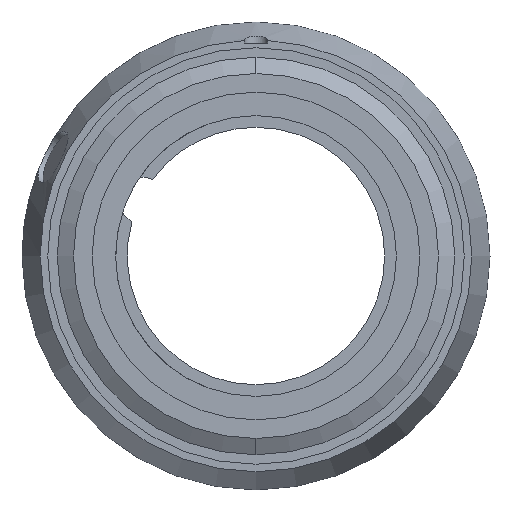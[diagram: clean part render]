
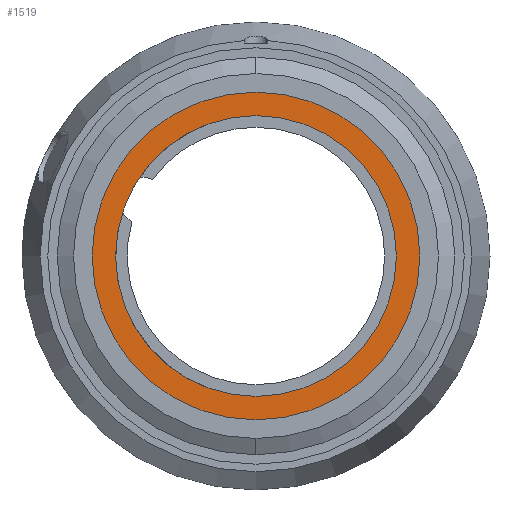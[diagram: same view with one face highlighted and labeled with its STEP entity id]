
A CAD part, left-side view. The second image highlights one B-rep face of the part: STEP entity #1519.
In plain terms, the highlighted planar face has unit normal (-1, 0, 0).
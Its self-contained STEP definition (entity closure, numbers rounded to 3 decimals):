
#263 = AXIS2_PLACEMENT_3D ( 'NONE', #1854, #1853, #1850 ) ;
#272 = AXIS2_PLACEMENT_3D ( 'NONE', #1871, #1870, #1869 ) ;
#313 = AXIS2_PLACEMENT_3D ( 'NONE', #2093, #2091, #2084 ) ;
#320 = AXIS2_PLACEMENT_3D ( 'NONE', #2168, #2164, #2163 ) ;
#394 = CIRCLE ( 'NONE', #263, 30. ) ;
#415 = CIRCLE ( 'NONE', #272, 35. ) ;
#531 = CIRCLE ( 'NONE', #313, 35. ) ;
#593 = CIRCLE ( 'NONE', #320, 30. ) ;
#606 = CARTESIAN_POINT ( 'NONE',  ( 942., 0., 1331.5 ) ) ;
#619 = CARTESIAN_POINT ( 'NONE',  ( 942., 0., 1261.5 ) ) ;
#1083 = EDGE_CURVE ( 'NONE', #1726, #1674, #593, .T. ) ;
#1125 = EDGE_CURVE ( 'NONE', #2345, #2266, #531, .T. ) ;
#1131 = CARTESIAN_POINT ( 'NONE',  ( 942., 0., 1326.5 ) ) ;
#1178 = EDGE_LOOP ( 'NONE', ( #2359, #1640 ) ) ;
#1188 = CARTESIAN_POINT ( 'NONE',  ( 942., 0., 1266.5 ) ) ;
#1225 = EDGE_CURVE ( 'NONE', #2266, #2345, #415, .T. ) ;
#1238 = EDGE_CURVE ( 'NONE', #1674, #1726, #394, .T. ) ;
#1349 = DIRECTION ( 'NONE',  ( 0., 0., 1. ) ) ;
#1352 = PLANE ( 'NONE',  #2052 ) ;
#1355 = CARTESIAN_POINT ( 'NONE',  ( 942., 0., 1296.5 ) ) ;
#1360 = DIRECTION ( 'NONE',  ( -1., 0., 0. ) ) ;
#1519 = ADVANCED_FACE ( 'NONE', ( #2454, #2421 ), #1352, .T. ) ;
#1640 = ORIENTED_EDGE ( 'NONE', *, *, #1083, .T. ) ;
#1674 = VERTEX_POINT ( 'NONE', #1188 ) ;
#1726 = VERTEX_POINT ( 'NONE', #1131 ) ;
#1850 = DIRECTION ( 'NONE',  ( 0., 0., -1. ) ) ;
#1853 = DIRECTION ( 'NONE',  ( 1., 0., 0. ) ) ;
#1854 = CARTESIAN_POINT ( 'NONE',  ( 942., 0., 1296.5 ) ) ;
#1869 = DIRECTION ( 'NONE',  ( 0., 0., -1. ) ) ;
#1870 = DIRECTION ( 'NONE',  ( -1., 0., 0. ) ) ;
#1871 = CARTESIAN_POINT ( 'NONE',  ( 942., 0., 1296.5 ) ) ;
#1982 = EDGE_LOOP ( 'NONE', ( #2198, #2311 ) ) ;
#2052 = AXIS2_PLACEMENT_3D ( 'NONE', #1355, #1360, #1349 ) ;
#2084 = DIRECTION ( 'NONE',  ( 0., 0., -1. ) ) ;
#2091 = DIRECTION ( 'NONE',  ( -1., 0., 0. ) ) ;
#2093 = CARTESIAN_POINT ( 'NONE',  ( 942., 0., 1296.5 ) ) ;
#2163 = DIRECTION ( 'NONE',  ( 0., 0., -1. ) ) ;
#2164 = DIRECTION ( 'NONE',  ( 1., 0., 0. ) ) ;
#2168 = CARTESIAN_POINT ( 'NONE',  ( 942., 0., 1296.5 ) ) ;
#2198 = ORIENTED_EDGE ( 'NONE', *, *, #1225, .T. ) ;
#2266 = VERTEX_POINT ( 'NONE', #619 ) ;
#2311 = ORIENTED_EDGE ( 'NONE', *, *, #1125, .T. ) ;
#2345 = VERTEX_POINT ( 'NONE', #606 ) ;
#2359 = ORIENTED_EDGE ( 'NONE', *, *, #1238, .T. ) ;
#2421 = FACE_BOUND ( 'NONE', #1178, .T. ) ;
#2454 = FACE_OUTER_BOUND ( 'NONE', #1982, .T. ) ;
